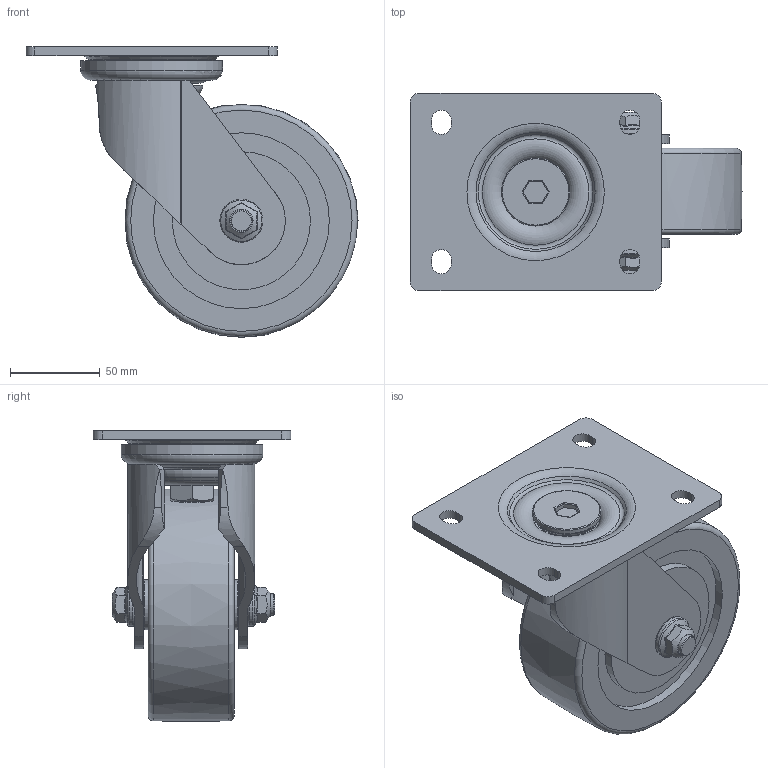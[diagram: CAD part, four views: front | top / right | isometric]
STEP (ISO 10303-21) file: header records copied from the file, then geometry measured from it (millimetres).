
FILE_DESCRIPTION(/* description */ (''),/* implementation_level */ '2;1');
FILE_NAME(/* name */ 'PMW-130-ASF.step',/* time_stamp */ '2026-01-27T08:47:26+09:00',/* author */ (''),/* organization */ (''),/* preprocessor_version */ 'ST-DEVELOPER v20.1',/* originating_system */ 'Autodesk Translation Framework v14.24.0.0',/* authorisation */ '');
FILE_SCHEMA (('AUTOMOTIVE_DESIGN { 1 0 10303 214 3 1 1 }'));
Length unit declared in the file: millimetre
Products named in the file (1): PMW-130A-SF
Bounding box: 185 x 110 x 161.96 mm (x, y, z)
Volume: 778722.6 mm3; surface area: 157100.8 mm2
Topology: 1 solids, 10 shells, 313 faces, 771 edges, 500 vertices
Faces by surface type: plane 122, cylinder 87, torus 52, cone 33, bspline 15, sphere 4
Full cylindrical faces by diameter (mm): 12 x1, 15 x1, 15.2 x1, 16 x2, 18 x3, 20 x4, 20.2 x2, 24 x2, 26 x1, 28 x2, 29 x8, 38 x9, 42 x1, 47 x4, 69 x1, 77 x2, 79 x1, 98 x2
Entity records: 13599 total; most frequent: CARTESIAN_POINT 6096, DIRECTION 1596, ORIENTED_EDGE 1526, EDGE_CURVE 763, AXIS2_PLACEMENT_3D 664, VERTEX_POINT 500, EDGE_LOOP 381, CIRCLE 338
